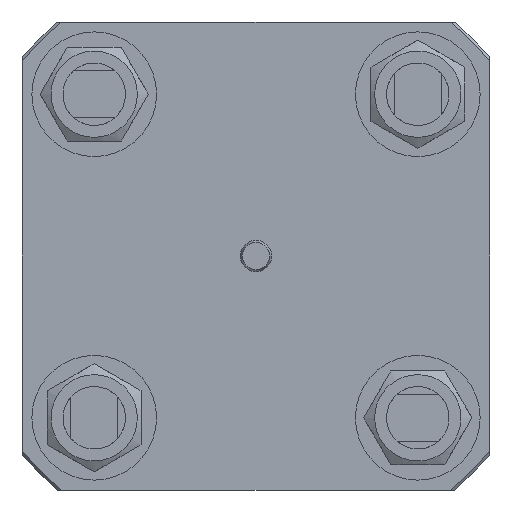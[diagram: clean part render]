
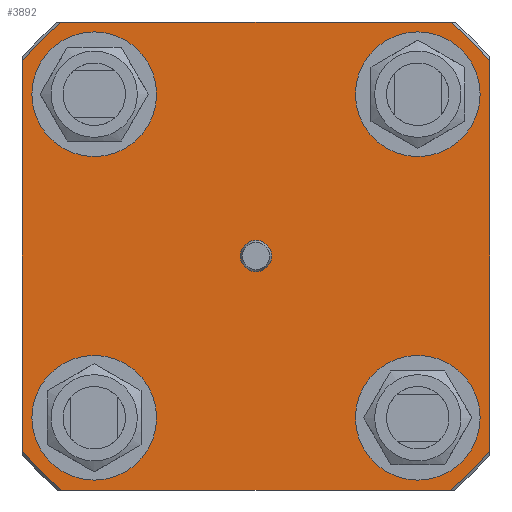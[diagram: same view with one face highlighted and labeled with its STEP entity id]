
A CAD part, left-side view. The second image highlights one B-rep face of the part: STEP entity #3892.
In plain terms, the highlighted planar face has unit normal (-1, 0, 0).
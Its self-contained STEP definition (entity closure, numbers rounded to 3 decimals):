
#237=FACE_BOUND('',#720,.T.);
#238=FACE_BOUND('',#721,.T.);
#239=FACE_BOUND('',#722,.T.);
#240=FACE_BOUND('',#723,.T.);
#241=FACE_BOUND('',#724,.T.);
#323=PLANE('',#4261);
#468=FACE_OUTER_BOUND('',#719,.T.);
#719=EDGE_LOOP('',(#3002,#3003,#3004,#3005,#3006,#3007,#3008,#3009));
#720=EDGE_LOOP('',(#3010));
#721=EDGE_LOOP('',(#3011));
#722=EDGE_LOOP('',(#3012));
#723=EDGE_LOOP('',(#3013));
#724=EDGE_LOOP('',(#3014));
#973=LINE('',#6382,#1190);
#974=LINE('',#6386,#1191);
#975=LINE('',#6390,#1192);
#976=LINE('',#6394,#1193);
#1190=VECTOR('',#5087,10.);
#1191=VECTOR('',#5090,10.);
#1192=VECTOR('',#5093,10.);
#1193=VECTOR('',#5096,10.);
#1371=CIRCLE('',#4185,3.);
#1382=CIRCLE('',#4227,12.);
#1384=CIRCLE('',#4231,12.);
#1386=CIRCLE('',#4235,12.);
#1390=CIRCLE('',#4250,12.);
#1399=CIRCLE('',#4262,58.5);
#1400=CIRCLE('',#4263,58.5);
#1401=CIRCLE('',#4264,58.5);
#1402=CIRCLE('',#4265,58.5);
#1632=VERTEX_POINT('',#6006);
#1679=VERTEX_POINT('',#6229);
#1681=VERTEX_POINT('',#6236);
#1683=VERTEX_POINT('',#6243);
#1699=VERTEX_POINT('',#6319);
#1714=VERTEX_POINT('',#6380);
#1715=VERTEX_POINT('',#6381);
#1716=VERTEX_POINT('',#6383);
#1717=VERTEX_POINT('',#6385);
#1718=VERTEX_POINT('',#6387);
#1719=VERTEX_POINT('',#6389);
#1720=VERTEX_POINT('',#6391);
#1721=VERTEX_POINT('',#6393);
#2052=EDGE_CURVE('',#1632,#1632,#1371,.T.);
#2125=EDGE_CURVE('',#1679,#1679,#1382,.T.);
#2128=EDGE_CURVE('',#1681,#1681,#1384,.T.);
#2131=EDGE_CURVE('',#1683,#1683,#1386,.T.);
#2156=EDGE_CURVE('',#1699,#1699,#1390,.T.);
#2173=EDGE_CURVE('',#1714,#1715,#973,.T.);
#2174=EDGE_CURVE('',#1715,#1716,#1399,.T.);
#2175=EDGE_CURVE('',#1716,#1717,#974,.T.);
#2176=EDGE_CURVE('',#1717,#1718,#1400,.T.);
#2177=EDGE_CURVE('',#1718,#1719,#975,.T.);
#2178=EDGE_CURVE('',#1719,#1720,#1401,.T.);
#2179=EDGE_CURVE('',#1720,#1721,#976,.T.);
#2180=EDGE_CURVE('',#1721,#1714,#1402,.T.);
#3002=ORIENTED_EDGE('',*,*,#2173,.T.);
#3003=ORIENTED_EDGE('',*,*,#2174,.T.);
#3004=ORIENTED_EDGE('',*,*,#2175,.T.);
#3005=ORIENTED_EDGE('',*,*,#2176,.T.);
#3006=ORIENTED_EDGE('',*,*,#2177,.T.);
#3007=ORIENTED_EDGE('',*,*,#2178,.T.);
#3008=ORIENTED_EDGE('',*,*,#2179,.T.);
#3009=ORIENTED_EDGE('',*,*,#2180,.T.);
#3010=ORIENTED_EDGE('',*,*,#2052,.T.);
#3011=ORIENTED_EDGE('',*,*,#2125,.T.);
#3012=ORIENTED_EDGE('',*,*,#2128,.T.);
#3013=ORIENTED_EDGE('',*,*,#2131,.T.);
#3014=ORIENTED_EDGE('',*,*,#2156,.T.);
#3892=ADVANCED_FACE('',(#468,#237,#238,#239,#240,#241),#323,.T.);
#4185=AXIS2_PLACEMENT_3D('',#6007,#4890,#4891);
#4227=AXIS2_PLACEMENT_3D('',#6230,#5000,#5001);
#4231=AXIS2_PLACEMENT_3D('',#6237,#5009,#5010);
#4235=AXIS2_PLACEMENT_3D('',#6244,#5018,#5019);
#4250=AXIS2_PLACEMENT_3D('',#6320,#5057,#5058);
#4261=AXIS2_PLACEMENT_3D('',#6379,#5085,#5086);
#4262=AXIS2_PLACEMENT_3D('',#6384,#5088,#5089);
#4263=AXIS2_PLACEMENT_3D('',#6388,#5091,#5092);
#4264=AXIS2_PLACEMENT_3D('',#6392,#5094,#5095);
#4265=AXIS2_PLACEMENT_3D('',#6395,#5097,#5098);
#4890=DIRECTION('center_axis',(1.,0.,0.));
#4891=DIRECTION('ref_axis',(0.,1.,0.));
#5000=DIRECTION('center_axis',(1.,0.,0.));
#5001=DIRECTION('ref_axis',(0.,-1.,0.));
#5009=DIRECTION('center_axis',(1.,0.,0.));
#5010=DIRECTION('ref_axis',(0.,0.,-1.));
#5018=DIRECTION('center_axis',(1.,0.,0.));
#5019=DIRECTION('ref_axis',(0.,1.,0.));
#5057=DIRECTION('center_axis',(1.,0.,0.));
#5058=DIRECTION('ref_axis',(0.,0.,
1.));
#5085=DIRECTION('center_axis',(-1.,0.,0.));
#5086=DIRECTION('ref_axis',(0.,0.,-1.));
#5087=DIRECTION('',(0.,-1.,0.));
#5088=DIRECTION('center_axis',(-1.,0.,0.));
#5089=DIRECTION('ref_axis',(0.,0.,-1.));
#5090=DIRECTION('',(0.,0.,1.));
#5091=DIRECTION('center_axis',(-1.,0.,0.));
#5092=DIRECTION('ref_axis',(0.,0.,-1.));
#5093=DIRECTION('',(0.,1.,0.));
#5094=DIRECTION('center_axis',(-1.,0.,0.));
#5095=DIRECTION('ref_axis',(0.,0.,-1.));
#5096=DIRECTION('',(0.,0.,-1.));
#5097=DIRECTION('center_axis',(-1.,0.,0.));
#5098=DIRECTION('ref_axis',(0.,0.,-1.));
#6006=CARTESIAN_POINT('',(-245.996,-3.,0.));
#6007=CARTESIAN_POINT('Origin',(-245.996,0.,
0.));
#6229=CARTESIAN_POINT('',(-245.996,-19.113,31.113));
#6230=CARTESIAN_POINT('Origin',(-245.996,-31.113,31.113));
#6236=CARTESIAN_POINT('',(-245.996,-31.113,-19.113));
#6237=CARTESIAN_POINT('Origin',(-245.996,-31.113,-31.113));
#6243=CARTESIAN_POINT('',(-245.996,19.113,-31.113));
#6244=CARTESIAN_POINT('Origin',(-245.996,31.113,-31.113));
#6319=CARTESIAN_POINT('',(-245.996,31.113,19.113));
#6320=CARTESIAN_POINT('Origin',(-245.996,31.113,31.113));
#6379=CARTESIAN_POINT('Origin',(-245.996,-3.1,0.));
#6380=CARTESIAN_POINT('',(-245.996,37.38,-45.));
#6381=CARTESIAN_POINT('',(-245.996,-37.38,-45.));
#6382=CARTESIAN_POINT('',(-245.996,20.95,-45.));
#6383=CARTESIAN_POINT('',(-245.996,-45.,-37.38));
#6384=CARTESIAN_POINT('Origin',(-245.996,0.,
0.));
#6385=CARTESIAN_POINT('',(-245.996,-45.,37.38));
#6386=CARTESIAN_POINT('',(-245.996,-45.,-22.5));
#6387=CARTESIAN_POINT('',(-245.996,-37.38,45.));
#6388=CARTESIAN_POINT('Origin',(-245.996,0.,
0.));
#6389=CARTESIAN_POINT('',(-245.996,37.38,45.));
#6390=CARTESIAN_POINT('',(-245.996,-24.05,45.));
#6391=CARTESIAN_POINT('',(-245.996,45.,37.38));
#6392=CARTESIAN_POINT('Origin',(-245.996,0.,
0.));
#6393=CARTESIAN_POINT('',(-245.996,45.,-37.38));
#6394=CARTESIAN_POINT('',(-245.996,45.,22.5));
#6395=CARTESIAN_POINT('Origin',(-245.996,0.,
0.));
